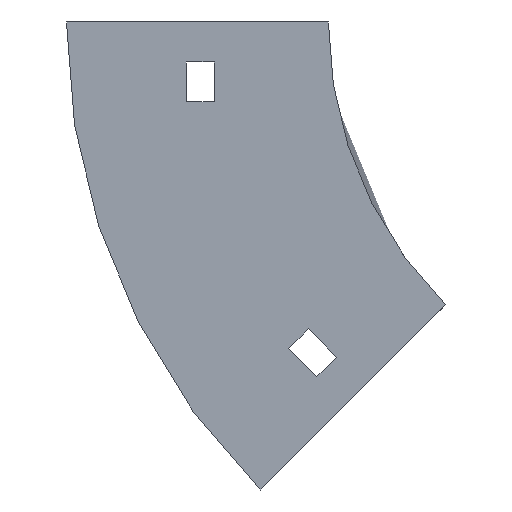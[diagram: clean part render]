
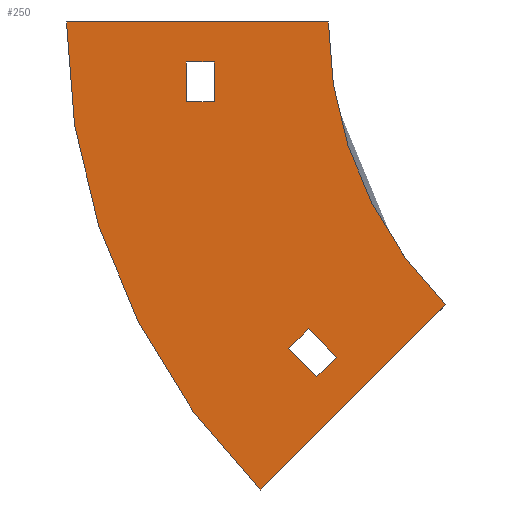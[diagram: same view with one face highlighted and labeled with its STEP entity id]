
A CAD part, left-side view. The second image highlights one B-rep face of the part: STEP entity #250.
In plain terms, the highlighted planar face has unit normal (-1, 0, 0).
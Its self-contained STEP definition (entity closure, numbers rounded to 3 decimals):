
#1 = DIRECTION ( 'NONE',  ( 0., 0., 1. ) ) ;
#5 = DIRECTION ( 'NONE',  ( 0., 0., 1. ) ) ;
#33 = DIRECTION ( 'NONE',  ( 0., 0.707, -0.707 ) ) ;
#37 = VECTOR ( 'NONE', #431, 1000. ) ;
#38 = CARTESIAN_POINT ( 'NONE',  ( -152., 9.955, -81.671 ) ) ;
#57 = CARTESIAN_POINT ( 'NONE',  ( -152., 28.5, -20. ) ) ;
#72 = LINE ( 'NONE', #1125, #986 ) ;
#75 = VERTEX_POINT ( 'NONE', #926 ) ;
#79 = LINE ( 'NONE', #538, #639 ) ;
#90 = ORIENTED_EDGE ( 'NONE', *, *, #158, .T. ) ;
#93 = VERTEX_POINT ( 'NONE', #1112 ) ;
#108 = EDGE_CURVE ( 'NONE', #75, #1036, #517, .T. ) ;
#110 = DIRECTION ( 'NONE',  ( 1., 0., 0. ) ) ;
#111 = LINE ( 'NONE', #208, #547 ) ;
#133 = CARTESIAN_POINT ( 'NONE',  ( -152., -29.289, -70.711 ) ) ;
#145 = VECTOR ( 'NONE', #488, 1000. ) ;
#158 = EDGE_CURVE ( 'NONE', #93, #670, #329, .T. ) ;
#165 = CARTESIAN_POINT ( 'NONE',  ( -152., -2.066, -83.792 ) ) ;
#168 = CARTESIAN_POINT ( 'NONE',  ( -152., 35.5, -10. ) ) ;
#172 = VERTEX_POINT ( 'NONE', #857 ) ;
#193 = VERTEX_POINT ( 'NONE', #721 ) ;
#201 = VECTOR ( 'NONE', #658, 1000. ) ;
#204 = EDGE_CURVE ( 'NONE', #172, #687, #976, .T. ) ;
#208 = CARTESIAN_POINT ( 'NONE',  ( -152., 65.5, 0. ) ) ;
#209 = ORIENTED_EDGE ( 'NONE', *, *, #456, .F. ) ;
#214 = ORIENTED_EDGE ( 'NONE', *, *, #464, .F. ) ;
#222 = ORIENTED_EDGE ( 'NONE', *, *, #108, .F. ) ;
#250 = ADVANCED_FACE ( 'NONE', ( #289, #383, #817 ), #907, .T. ) ;
#263 = ORIENTED_EDGE ( 'NONE', *, *, #897, .F. ) ;
#264 = EDGE_CURVE ( 'NONE', #446, #172, #111, .T. ) ;
#284 = VECTOR ( 'NONE', #659, 1000. ) ;
#289 = FACE_BOUND ( 'NONE', #318, .T. ) ;
#294 = DIRECTION ( 'NONE',  ( -1., 0., 0. ) ) ;
#307 = ORIENTED_EDGE ( 'NONE', *, *, #930, .T. ) ;
#309 = CARTESIAN_POINT ( 'NONE',  ( -152., 35.5, -20. ) ) ;
#315 = AXIS2_PLACEMENT_3D ( 'NONE', #633, #813, #1 ) ;
#318 = EDGE_LOOP ( 'NONE', ( #451, #307, #581, #90 ) ) ;
#329 = LINE ( 'NONE', #667, #1059 ) ;
#337 = CARTESIAN_POINT ( 'NONE',  ( -152., 65.5, 0. ) ) ;
#374 = VERTEX_POINT ( 'NONE', #1032 ) ;
#375 = VERTEX_POINT ( 'NONE', #509 ) ;
#383 = FACE_OUTER_BOUND ( 'NONE', #1047, .T. ) ;
#384 = EDGE_LOOP ( 'NONE', ( #209, #678, #222, #263 ) ) ;
#388 = DIRECTION ( 'NONE',  ( 0., -1., 0. ) ) ;
#394 = VECTOR ( 'NONE', #501, 1000. ) ;
#408 = LINE ( 'NONE', #753, #394 ) ;
#421 = CARTESIAN_POINT ( 'NONE',  ( -152., 2.884, -88.742 ) ) ;
#431 = DIRECTION ( 'NONE',  ( 0., 0.707, 0.707 ) ) ;
#446 = VERTEX_POINT ( 'NONE', #337 ) ;
#451 = ORIENTED_EDGE ( 'NONE', *, *, #684, .T. ) ;
#456 = EDGE_CURVE ( 'NONE', #375, #1138, #864, .T. ) ;
#461 = ORIENTED_EDGE ( 'NONE', *, *, #1139, .F. ) ;
#464 = EDGE_CURVE ( 'NONE', #193, #446, #698, .T. ) ;
#488 = DIRECTION ( 'NONE',  ( 0., 1., 0. ) ) ;
#501 = DIRECTION ( 'NONE',  ( 0., -0.707, 0.707 ) ) ;
#509 = CARTESIAN_POINT ( 'NONE',  ( -152., -2.066, -83.792 ) ) ;
#517 = LINE ( 'NONE', #675, #201 ) ;
#538 = CARTESIAN_POINT ( 'NONE',  ( -152., 28.5, -10. ) ) ;
#547 = VECTOR ( 'NONE', #388, 1000. ) ;
#556 = LINE ( 'NONE', #309, #145 ) ;
#581 = ORIENTED_EDGE ( 'NONE', *, *, #1100, .T. ) ;
#623 = CARTESIAN_POINT ( 'NONE',  ( -152., -29.289, -70.711 ) ) ;
#631 = ORIENTED_EDGE ( 'NONE', *, *, #264, .F. ) ;
#633 = CARTESIAN_POINT ( 'NONE',  ( -152., -100., 0. ) ) ;
#639 = VECTOR ( 'NONE', #888, 1000. ) ;
#649 = CARTESIAN_POINT ( 'NONE',  ( -152., 5.005, -76.721 ) ) ;
#658 = DIRECTION ( 'NONE',  ( 0., -0.707, -0.707 ) ) ;
#659 = DIRECTION ( 'NONE',  ( 0., 0.707, -0.707 ) ) ;
#667 = CARTESIAN_POINT ( 'NONE',  ( -152., 35.5, -10. ) ) ;
#670 = VERTEX_POINT ( 'NONE', #168 ) ;
#671 = DIRECTION ( 'NONE',  ( 0., 0., 1. ) ) ;
#675 = CARTESIAN_POINT ( 'NONE',  ( -152., 2.884, -88.742 ) ) ;
#678 = ORIENTED_EDGE ( 'NONE', *, *, #891, .F. ) ;
#684 = EDGE_CURVE ( 'NONE', #670, #374, #72, .T. ) ;
#685 = VECTOR ( 'NONE', #33, 1000. ) ;
#687 = VERTEX_POINT ( 'NONE', #623 ) ;
#698 = CIRCLE ( 'NONE', #875, 165.5 ) ;
#721 = CARTESIAN_POINT ( 'NONE',  ( -152., 17.026, -117.026 ) ) ;
#724 = DIRECTION ( 'NONE',  ( 0., -1., 0. ) ) ;
#738 = VERTEX_POINT ( 'NONE', #57 ) ;
#744 = LINE ( 'NONE', #133, #685 ) ;
#753 = CARTESIAN_POINT ( 'NONE',  ( -152., 2.884, -88.742 ) ) ;
#813 = DIRECTION ( 'NONE',  ( -1., 0., 0. ) ) ;
#816 = ORIENTED_EDGE ( 'NONE', *, *, #204, .F. ) ;
#817 = FACE_BOUND ( 'NONE', #384, .T. ) ;
#848 = LINE ( 'NONE', #38, #284 ) ;
#857 = CARTESIAN_POINT ( 'NONE',  ( -152., 0., 0. ) ) ;
#864 = LINE ( 'NONE', #165, #37 ) ;
#875 = AXIS2_PLACEMENT_3D ( 'NONE', #988, #110, #671 ) ;
#888 = DIRECTION ( 'NONE',  ( 0., 0., -1. ) ) ;
#891 = EDGE_CURVE ( 'NONE', #1036, #375, #408, .T. ) ;
#897 = EDGE_CURVE ( 'NONE', #1138, #75, #848, .T. ) ;
#907 = PLANE ( 'NONE',  #1147 ) ;
#926 = CARTESIAN_POINT ( 'NONE',  ( -152., 9.955, -81.671 ) ) ;
#930 = EDGE_CURVE ( 'NONE', #374, #738, #79, .T. ) ;
#976 = CIRCLE ( 'NONE', #315, 100. ) ;
#986 = VECTOR ( 'NONE', #724, 1000. ) ;
#988 = CARTESIAN_POINT ( 'NONE',  ( -152., -100., 0. ) ) ;
#1014 = DIRECTION ( 'NONE',  ( 0., 0., 1. ) ) ;
#1032 = CARTESIAN_POINT ( 'NONE',  ( -152., 28.5, -10. ) ) ;
#1036 = VERTEX_POINT ( 'NONE', #421 ) ;
#1047 = EDGE_LOOP ( 'NONE', ( #816, #631, #214, #461 ) ) ;
#1059 = VECTOR ( 'NONE', #1014, 1000. ) ;
#1072 = CARTESIAN_POINT ( 'NONE',  ( -152., -100., 0. ) ) ;
#1100 = EDGE_CURVE ( 'NONE', #738, #93, #556, .T. ) ;
#1112 = CARTESIAN_POINT ( 'NONE',  ( -152., 35.5, -20. ) ) ;
#1125 = CARTESIAN_POINT ( 'NONE',  ( -152., 35.5, -10. ) ) ;
#1138 = VERTEX_POINT ( 'NONE', #649 ) ;
#1139 = EDGE_CURVE ( 'NONE', #687, #193, #744, .T. ) ;
#1147 = AXIS2_PLACEMENT_3D ( 'NONE', #1072, #294, #5 ) ;
